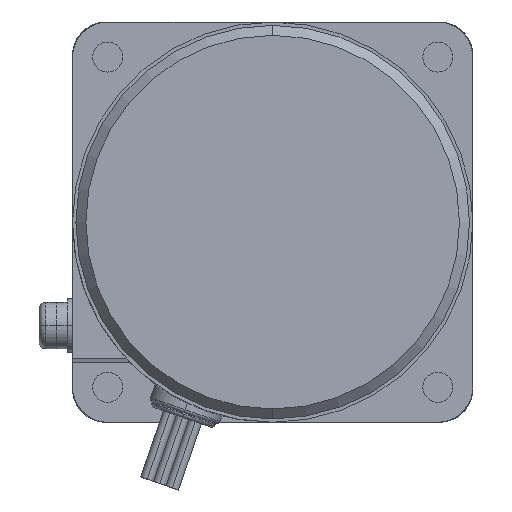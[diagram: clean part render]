
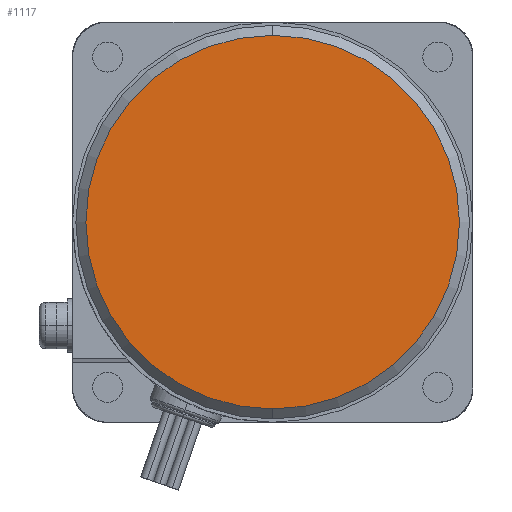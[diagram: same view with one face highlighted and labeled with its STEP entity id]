
A CAD part, left-side view. The second image highlights one B-rep face of the part: STEP entity #1117.
In plain terms, the highlighted planar face has unit normal (-1, 0, 0).
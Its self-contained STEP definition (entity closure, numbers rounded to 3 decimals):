
#1097=CARTESIAN_POINT('POINT50960',(-115.,0.,
   18.));
#1098=VERTEX_POINT('VERTEX50960',#1097);
#1099=CARTESIAN_POINT('POINT50961',(-115.,0.,
   -38.));
#1100=VERTEX_POINT('VERTEX50961',#1099);
#1101=CARTESIAN_POINT('POS87765',(-115.,0.,-10.));
#1102=DIRECTION('DIR134224',(1.,0.,0.));
#1103=DIRECTION('DIR134225',(0.,0.,1.));
#1104=AXIS2_PLACEMENT_3D('AXIS46460',#1101,#1102,#1103);
#1105=CIRCLE('ELLIPSE22312',#1104,28.);
#1106=EDGE_CURVE('EDGE78181',#1098,#1100,#1105,.T.);
#1107=ORIENTED_EDGE('COEDGE156357',*,*,#1106,.F.);
#1108=EDGE_CURVE('EDGE78182',#1100,#1098,#1105,.T.);
#1109=ORIENTED_EDGE('COEDGE156358',*,*,#1108,.F.);
#1110=EDGE_LOOP('NONE',(#1107,#1109));
#1111=FACE_BOUND('LOOP1',#1110,.T.);
#1112=CARTESIAN_POINT('POS87766',(-115.,0.,
   4.));
#1113=DIRECTION('DIR134226',(-1.,0.,0.));
#1114=DIRECTION('DIR134227',(0.,1.,0.));
#1115=AXIS2_PLACEMENT_3D('AXIS46461',#1112,#1113,#1114);
#1116=PLANE('PLANE13751',#1115);
#1117=ADVANCED_FACE('FACE32778',(#1111),#1116,.T.);
